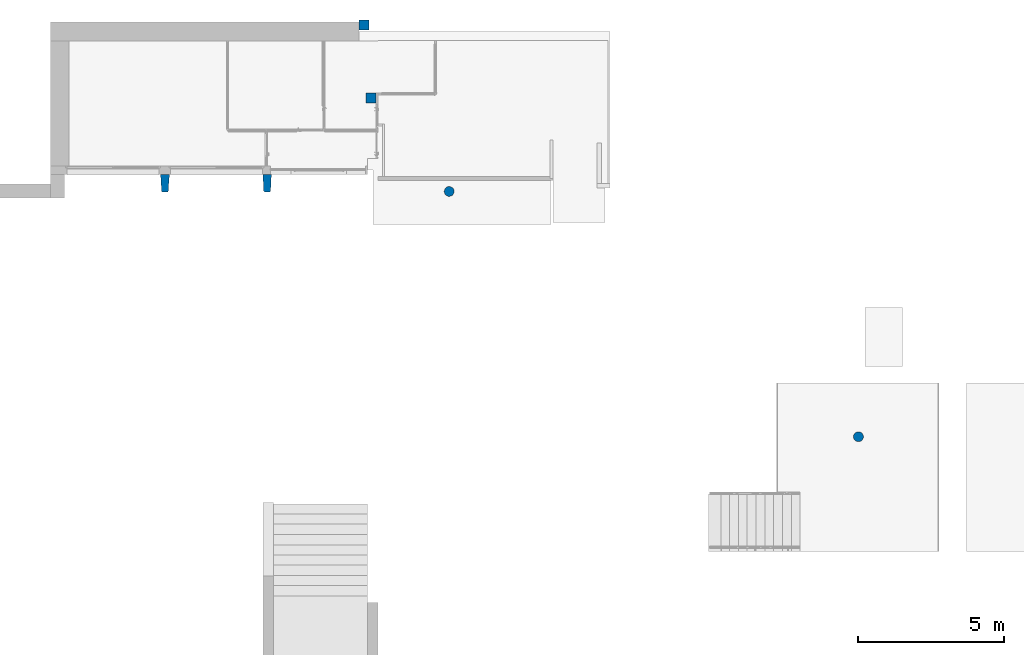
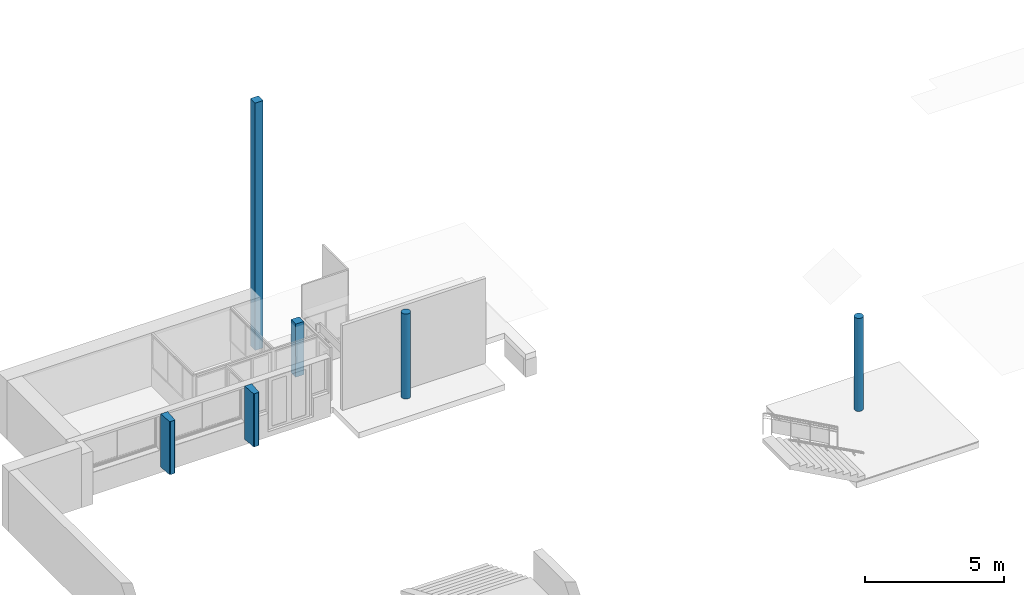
# One storey, part 1 of 19: 6 columns.
"""IFC4 building model written with IfcOpenShell, lengths in metres."""

from ifc_helpers import new_model, entity, si_unit, converted_unit, derived_unit, direction, frame, origin, place, context, subcontext, project, spatial, indexed_curve, outline, extrude, source, transform, mapped, material, material_list, type_object, type_shapes, element, save


model = new_model("IFC4")

# Units and contexts
model_context = context("Model", 3, precision=1e-05, world=origin(), true_north=direction((6.12303176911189e-17, 1.0)))
body_context = subcontext(model_context, "Body", "Model", "MODEL_VIEW")
ifc_project = project(units=[si_unit("LENGTHUNIT", "METRE"), si_unit("AREAUNIT", "SQUARE_METRE"), si_unit("VOLUMEUNIT", "CUBIC_METRE"), converted_unit("PLANEANGLEUNIT", "DEGREE", entity("IfcRatioMeasure", 0.0174532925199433), si_unit("PLANEANGLEUNIT", "RADIAN"), dimensions=[0, 0, 0, 0, 0, 0, 0]), si_unit("MASSUNIT", "GRAM", prefix="KILO"), derived_unit("MASSDENSITYUNIT", [(si_unit("MASSUNIT", "GRAM", prefix="KILO"), 1), (si_unit("LENGTHUNIT", "METRE"), -3)]), derived_unit("MOMENTOFINERTIAUNIT", [(si_unit("LENGTHUNIT", "METRE"), 4)]), si_unit("TIMEUNIT", "SECOND"), si_unit("FREQUENCYUNIT", "HERTZ"), si_unit("THERMODYNAMICTEMPERATUREUNIT", "DEGREE_CELSIUS"), derived_unit("THERMALTRANSMITTANCEUNIT", [(si_unit("MASSUNIT", "GRAM", prefix="KILO"), 1), (si_unit("THERMODYNAMICTEMPERATUREUNIT", "KELVIN"), -1), (si_unit("TIMEUNIT", "SECOND"), -3)]), derived_unit("VOLUMETRICFLOWRATEUNIT", [(si_unit("LENGTHUNIT", "METRE"), 3), (si_unit("TIMEUNIT", "SECOND"), -1)]), si_unit("ELECTRICCURRENTUNIT", "AMPERE"), si_unit("ELECTRICVOLTAGEUNIT", "VOLT"), si_unit("POWERUNIT", "WATT"), si_unit("FORCEUNIT", "NEWTON", prefix="KILO"), si_unit("ILLUMINANCEUNIT", "LUX"), si_unit("LUMINOUSFLUXUNIT", "LUMEN"), si_unit("LUMINOUSINTENSITYUNIT", "CANDELA"), derived_unit("USERDEFINED", [(si_unit("MASSUNIT", "GRAM", prefix="KILO"), -1), (si_unit("LENGTHUNIT", "METRE"), -2), (si_unit("TIMEUNIT", "SECOND"), 3), (si_unit("LUMINOUSFLUXUNIT", "LUMEN"), 1)]), derived_unit("LINEARVELOCITYUNIT", [(si_unit("LENGTHUNIT", "METRE"), 1), (si_unit("TIMEUNIT", "SECOND"), -1)]), si_unit("PRESSUREUNIT", "PASCAL"), derived_unit("USERDEFINED", [(si_unit("LENGTHUNIT", "METRE"), -2), (si_unit("MASSUNIT", "GRAM", prefix="KILO"), 1), (si_unit("TIMEUNIT", "SECOND"), -2)]), derived_unit("LINEARFORCEUNIT", [(si_unit("MASSUNIT", "GRAM", prefix="KILO"), 1), (si_unit("LENGTHUNIT", "METRE"), 1), (si_unit("TIMEUNIT", "SECOND"), -2), (si_unit("LENGTHUNIT", "METRE"), -1)]), derived_unit("PLANARFORCEUNIT", [(si_unit("MASSUNIT", "GRAM", prefix="KILO"), 1), (si_unit("LENGTHUNIT", "METRE"), 1), (si_unit("TIMEUNIT", "SECOND"), -2), (si_unit("LENGTHUNIT", "METRE"), -2)])], contexts=[model_context])

# Site, building, storey
site_placement = place(None, origin())
site = spatial("IfcSite", under=ifc_project, at=site_placement, Name="Default", CompositionType="ELEMENT")
building_placement = place(site_placement, origin())
building = spatial("IfcBuilding", under=site, at=building_placement, Name="HOTEL CONSULAIRE BOULOGNE SUR MER", CompositionType="ELEMENT")
storey_placement = place(building_placement, frame((0.0, 0.0, -4.01003075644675)))
storey = spatial("IfcBuildingStorey", under=building, at=storey_placement, Name="SS2", CompositionType="ELEMENT", Elevation=-4.01003075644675)

# Columns
ifc_material_1 = material(Name="Maçonnerie - Béton coulé sur place", Category="Béton")
column_type_1 = type_object("IfcColumnType", Name="Poteau béton - Rectangulaire:340x340", PredefinedType="COLUMN", material=ifc_material_1)
shared_shape_1 = source(origin(), body_context, "Body", "SweptSolid", [
    extrude(outline(indexed_curve([(-0.17, -0.17), (0.17, -0.17), (0.17, 0.17), (-0.169999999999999, 0.17), (-0.17, -0.17)], self_intersect=False)), frame((-13.9639806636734, -9.91463235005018, -4.26003075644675), z_axis=(0.0, 0.0, 1.0), x_axis=(0.0, -1.0, 0.0)), (0.0, 0.0, 1.0), 10.8920307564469),
])
type_shapes(column_type_1, [shared_shape_1])
column_1_placement = place(storey_placement, frame((0.0, 0.0, 4.01003075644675)))
element("IfcColumn", 1, at=column_1_placement, inside=storey, type_object=column_type_1, material=ifc_material_1, Name="Poteau béton - Rectangulaire:340x340", ObjectType="Poteau béton - Rectangulaire:340x340", PredefinedType="COLUMN", context=body_context, shape_type="MappedRepresentation", body=[
    mapped(shared_shape_1, transform((0.0, 0.0, 0.0), scale=1.0)),
])
ifc_material_2 = material(Name="Béton - Béton coulé sur place", Category="Béton")
ifc_material_3 = material(Name="<Unnamed>")
ifc_material_list_1 = material_list([ifc_material_3, ifc_material_2])
column_type_2 = type_object("IfcColumnType", Name="Poteaux porteurs 20:Poteaux porteurs 20", PredefinedType="COLUMN", material=ifc_material_list_1)
shared_shape_2 = source(origin(), body_context, "Body", "SweptSolid", [
    extrude(outline(indexed_curve([(-0.27052335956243, -0.150000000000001), (-0.170523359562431, -0.150000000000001), (-0.170523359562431, -0.140766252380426), (0.282093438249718, -0.117045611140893), (0.289616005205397, -0.116075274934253), (0.296905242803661, -0.113978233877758), (0.303793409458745, -0.110802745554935), (0.31012199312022, -0.106621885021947), (0.315745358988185, -0.101531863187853), (0.320534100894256, -0.0956498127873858), (0.324378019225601, -0.0891110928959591), (0.327188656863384, -0.082066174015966), (0.328901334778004, -0.0746771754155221), (0.32947664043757, -0.0671141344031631), (0.32947664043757, 0.0671141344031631), (0.328901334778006, 0.0746771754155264), (0.327188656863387, 0.0820661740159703), (0.324378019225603, 0.0891110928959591), (0.320534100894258, 0.0956498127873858), (0.315745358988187, 0.101531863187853), (0.31012199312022, 0.106621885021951), (0.303793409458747, 0.11080274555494), (0.296905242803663, 0.113978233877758), (0.289616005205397, 0.116075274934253), (0.282093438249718, 0.117045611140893), (-0.170523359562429, 0.140766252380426), (-0.170523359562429, 0.150000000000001), (-0.27052335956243, 0.150000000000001), (-0.27052335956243, -0.150000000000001)], self_intersect=False)), frame((-20.7787787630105, -15.3080989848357, -4.01003075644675), z_axis=(0.0, 0.0, 1.0), x_axis=(0.0, -1.0, 0.0)), (0.0, 0.0, 1.0), 2.34114570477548),
])
type_shapes(column_type_2, [shared_shape_2])
column_2_placement = place(storey_placement, frame((0.0, 0.0, 4.01003075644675)))
element("IfcColumn", 2, at=column_2_placement, inside=storey, type_object=column_type_2, material=ifc_material_2, Name="Poteaux porteurs 20:Poteaux porteurs 20", ObjectType="Poteaux porteurs 20:Poteaux porteurs 20", PredefinedType="COLUMN", context=body_context, shape_type="MappedRepresentation", body=[
    mapped(shared_shape_2, transform((0.0, 0.0, 0.0), scale=1.0)),
])
ifc_material_list_2 = material_list([ifc_material_3, ifc_material_2])
column_type_3 = type_object("IfcColumnType", Name="Poteaux porteurs 21:Poteaux porteurs 20", PredefinedType="COLUMN", material=ifc_material_list_2)
shared_shape_3 = source(origin(), body_context, "Body", "SweptSolid", [
    extrude(outline(indexed_curve([(-0.27052335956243, -0.150000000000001), (-0.170523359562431, -0.150000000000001), (-0.170523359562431, -0.140766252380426), (0.282093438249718, -0.117045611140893), (0.289616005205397, -0.116075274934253), (0.296905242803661, -0.113978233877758), (0.303793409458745, -0.110802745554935), (0.31012199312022, -0.106621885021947), (0.315745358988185, -0.101531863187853), (0.320534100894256, -0.0956498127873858), (0.324378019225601, -0.0891110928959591), (0.327188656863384, -0.082066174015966), (0.328901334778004, -0.0746771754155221), (0.32947664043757, -0.0671141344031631), (0.32947664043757, 0.0671141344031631), (0.328901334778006, 0.0746771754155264), (0.327188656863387, 0.0820661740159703), (0.324378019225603, 0.0891110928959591), (0.320534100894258, 0.0956498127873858), (0.315745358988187, 0.101531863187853), (0.31012199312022, 0.106621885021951), (0.303793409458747, 0.11080274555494), (0.296905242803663, 0.113978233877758), (0.289616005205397, 0.116075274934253), (0.282093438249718, 0.117045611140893), (-0.170523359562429, 0.140766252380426), (-0.170523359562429, 0.150000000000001), (-0.27052335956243, 0.150000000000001), (-0.27052335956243, -0.150000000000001)], self_intersect=False)), frame((-20.7787787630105, -15.3080989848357, -4.01003075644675), z_axis=(0.0, 0.0, 1.0), x_axis=(0.0, -1.0, 0.0)), (0.0, 0.0, 1.0), 2.34114570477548),
])
type_shapes(column_type_3, [shared_shape_3])
column_3_placement = place(storey_placement, frame((3.5, 0.0, 4.01003075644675)))
element("IfcColumn", 3, at=column_3_placement, inside=storey, type_object=column_type_3, material=ifc_material_2, Name="Poteaux porteurs 21:Poteaux porteurs 20", ObjectType="Poteaux porteurs 21:Poteaux porteurs 20", PredefinedType="COLUMN", context=body_context, shape_type="MappedRepresentation", body=[
    mapped(shared_shape_3, transform((0.0, 0.0, 0.0), scale=1.0)),
])
column_type_4 = type_object("IfcColumnType", Name="Poteau béton - Rectangulaire:340x340", PredefinedType="COLUMN", material=ifc_material_1)
shared_shape_4 = source(origin(), body_context, "Body", "SweptSolid", [
    extrude(outline(indexed_curve([(-0.17, -0.17), (0.17, -0.17), (0.17, 0.17), (-0.17, 0.17), (-0.17, -0.17)], self_intersect=False)), frame((0.0, 0.0, -4.01003075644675), z_axis=(0.0, 0.0, 1.0), x_axis=(0.0, -1.0, 0.0)), (0.0, 0.0, 1.0), 2.34113097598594),
])
type_shapes(column_type_4, [shared_shape_4])
column_4_placement = place(storey_placement, frame((-13.7153496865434, -12.4163241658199, 4.01003075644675), z_axis=(0.0, 0.0, 1.0), x_axis=(0.0, 1.0, 0.0)))
element("IfcColumn", 4, at=column_4_placement, inside=storey, type_object=column_type_4, material=ifc_material_1, Name="Poteau béton - Rectangulaire:340x340", ObjectType="Poteau béton - Rectangulaire:340x340", PredefinedType="COLUMN", context=body_context, shape_type="MappedRepresentation", body=[
    mapped(shared_shape_4, transform((0.0, 0.0, 0.0), scale=1.0)),
])
column_type_5 = type_object("IfcColumnType", Name="Poteau béton - Arrondi:340", PredefinedType="COLUMN", material=ifc_material_1)
shared_shape_5 = source(origin(), body_context, "Body", "SweptSolid", [
    extrude(outline(indexed_curve([(0.169999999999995, 0.0), (0.161679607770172, 0.0525328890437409), (0.137532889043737, 0.0999234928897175), (0.099923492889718, 0.137532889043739), (0.0525328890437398, 0.161679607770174), (0.0, 0.169999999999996), (-0.0525328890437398, 0.161679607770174), (-0.0999234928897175, 0.137532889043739), (-0.137532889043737, 0.0999234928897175), (-0.161679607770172, 0.0525328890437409), (-0.169999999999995, 0.0), (-0.161679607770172, -0.0525328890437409), (-0.137532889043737, -0.0999234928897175), (-0.0999234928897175, -0.137532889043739), (-0.0525328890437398, -0.161679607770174), (0.0, -0.169999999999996), (0.0525328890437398, -0.161679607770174), (0.0999234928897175, -0.137532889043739), (0.137532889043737, -0.0999234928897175), (0.161679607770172, -0.0525328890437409), (0.169999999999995, 0.0)], self_intersect=False)), frame((2.97117677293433, -24.015909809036, -4.37003075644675)), (0.0, 0.0, 1.0), 4.10003075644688),
])
type_shapes(column_type_5, [shared_shape_5])
column_5_placement = place(storey_placement, frame((0.0, 0.0, 4.01003075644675)))
element("IfcColumn", 5, at=column_5_placement, inside=storey, type_object=column_type_5, material=ifc_material_1, Name="Poteau béton - Arrondi:340", ObjectType="Poteau béton - Arrondi:340", PredefinedType="COLUMN", context=body_context, shape_type="MappedRepresentation", body=[
    mapped(shared_shape_5, transform((0.0, 0.0, 0.0), scale=1.0)),
])
column_type_6 = type_object("IfcColumnType", Name="Poteau béton - Arrondi:340", PredefinedType="COLUMN", material=ifc_material_1)
shared_shape_6 = source(origin(), body_context, "Body", "SweptSolid", [
    extrude(outline(indexed_curve([(0.169999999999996, 0.0), (0.161679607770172, 0.0525328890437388), (0.137532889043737, 0.0999234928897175), (0.0999234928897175, 0.137532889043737), (0.0525328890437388, 0.161679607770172), (0.0, 0.169999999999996), (-0.0525328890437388, 0.161679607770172), (-0.0999234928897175, 0.137532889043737), (-0.137532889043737, 0.0999234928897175), (-0.161679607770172, 0.0525328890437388), (-0.169999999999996, 0.0), (-0.161679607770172, -0.0525328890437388), (-0.137532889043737, -0.0999234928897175), (-0.0999234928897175, -0.137532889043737), (-0.0525328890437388, -0.161679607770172), (0.0, -0.169999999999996), (0.0525328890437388, -0.161679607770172), (0.0999234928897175, -0.137532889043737), (0.137532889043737, -0.0999234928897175), (0.161679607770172, -0.0525328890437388), (0.169999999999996, 0.0)], self_intersect=False)), frame((-11.0458232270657, -15.6159098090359, -4.01003075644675)), (0.0, 0.0, 1.0), 3.74003075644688),
])
type_shapes(column_type_6, [shared_shape_6])
column_6_placement = place(storey_placement, frame((0.0, 0.0, 4.01003075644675)))
element("IfcColumn", 6, at=column_6_placement, inside=storey, type_object=column_type_6, material=ifc_material_1, Name="Poteau béton - Arrondi:340", ObjectType="Poteau béton - Arrondi:340", PredefinedType="COLUMN", context=body_context, shape_type="MappedRepresentation", body=[
    mapped(shared_shape_6, transform((0.0, 0.0, 0.0), scale=1.0)),
])

save(model, "model.ifc")
